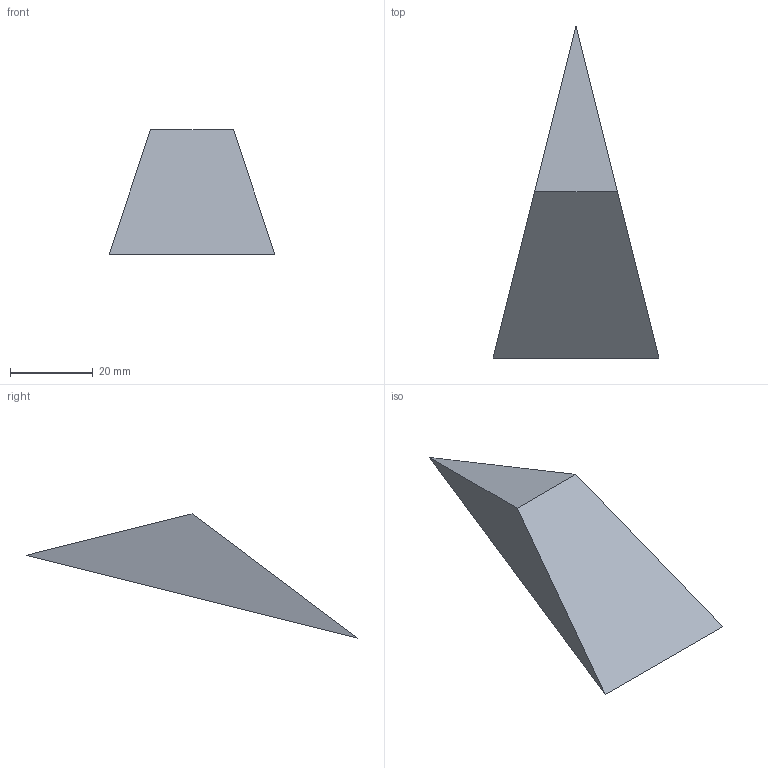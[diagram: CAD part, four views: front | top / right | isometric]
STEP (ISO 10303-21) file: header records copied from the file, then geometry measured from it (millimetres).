
FILE_DESCRIPTION(/* description */ ('','CAx-IF Rec.Pracs.---Representation and Presentation of Product Manufacturing Information (PMI)---4.0---2014-10-13'),/* implementation_level */ '2;1');
FILE_NAME(/* name */ '4.stp',/* time_stamp */ '2026-06-27T16:23:44+01:00',/* author */ ('hunte'),/* organization */ (''),/* preprocessor_version */ 'ST-DEVELOPER v20',/* originating_system */ 'Autodesk Inventor 2024',/* authorisation */ '');
FILE_SCHEMA (('AP242_MANAGED_MODEL_BASED_3D_ENGINEERING_MIM_LF { 1 0 10303 442 1 1 4 }'));
Length unit declared in the file: millimetre
Products named in the file (1): 4
Bounding box: 40 x 80 x 30 mm (x, y, z)
Volume: 16000 mm3; surface area: 5210.8 mm2
Topology: 1 solids, 1 shells, 5 faces, 8 edges, 5 vertices
Faces by surface type: plane 5
Entity records: 245 total; most frequent: DIRECTION 46, CARTESIAN_POINT 36, AXIS2_PLACEMENT_3D 19, ORIENTED_EDGE 16, LINE 8, VECTOR 8, EDGE_CURVE 8, MAPPED_ITEM 5
